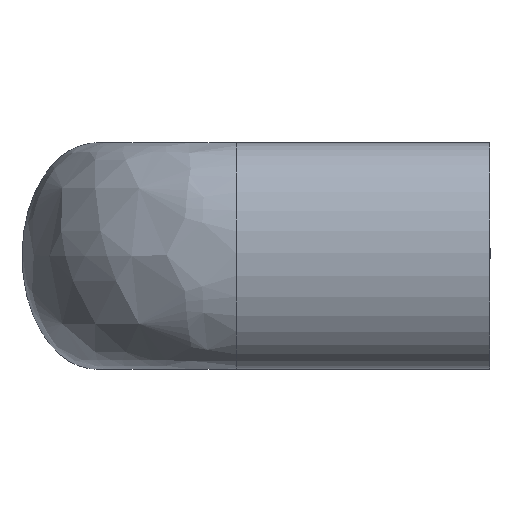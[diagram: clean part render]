
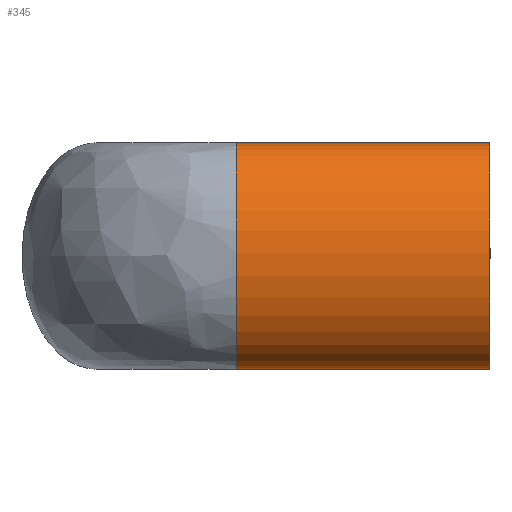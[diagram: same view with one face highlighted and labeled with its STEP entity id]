
A CAD part, left-side view. The second image highlights one B-rep face of the part: STEP entity #345.
In plain terms, the highlighted free-form (B-spline) face has degree [3, 1] with [4, 2] control points.
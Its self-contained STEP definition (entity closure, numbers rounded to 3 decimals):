
#23 = CARTESIAN_POINT ( 'NONE',  ( -60., -18., 14.5 ) ) ;
#24 = EDGE_CURVE ( 'NONE', #521, #193, #143, .T. ) ;
#44 =( BOUNDED_SURFACE ( )  B_SPLINE_SURFACE ( 3, 1, ( 
 ( #137, #107 ),
 ( #142, #647 ),
 ( #165, #265 ),
 ( #269, #262 ) ),
 .UNSPECIFIED., .F., .F., .T. ) 
 B_SPLINE_SURFACE_WITH_KNOTS ( ( 4, 4 ),
 ( 2, 2 ),
 ( 0., 1. ),
 ( 0., 1. ),
 .UNSPECIFIED. ) 
 GEOMETRIC_REPRESENTATION_ITEM ( )  RATIONAL_B_SPLINE_SURFACE ( (
 ( 1., 1.),
 ( 0.333, 0.333),
 ( 0.333, 0.333),
 ( 1., 1.) ) ) 
 REPRESENTATION_ITEM ( '' )  SURFACE ( )  );
#54 = EDGE_CURVE ( 'NONE', #193, #598, #132, .T. ) ;
#62 = DIRECTION ( 'NONE',  ( 0., -1., 0. ) ) ;
#63 = EDGE_CURVE ( 'NONE', #173, #598, #160, .T. ) ;
#65 = EDGE_CURVE ( 'NONE', #521, #173, #266, .T. ) ;
#107 = CARTESIAN_POINT ( 'NONE',  ( -60., -50.5, 14.5 ) ) ;
#111 = CARTESIAN_POINT ( 'NONE',  ( -79., -50.5, 14.5 ) ) ;
#118 = CARTESIAN_POINT ( 'NONE',  ( -60., -18., -14.5 ) ) ;
#121 = CARTESIAN_POINT ( 'NONE',  ( -79., -50.5, -14.5 ) ) ;
#132 =( BOUNDED_CURVE ( )  B_SPLINE_CURVE ( 3, ( #136, #111, #121, #140 ),
 .UNSPECIFIED., .F., .F. ) 
 B_SPLINE_CURVE_WITH_KNOTS ( ( 4, 4 ),
 ( 0., 3.142 ),
 .UNSPECIFIED. ) 
 CURVE ( )  GEOMETRIC_REPRESENTATION_ITEM ( )  RATIONAL_B_SPLINE_CURVE ( ( 1., 0.333, 0.333, 1. ) ) 
 REPRESENTATION_ITEM ( '' )  );
#133 = VECTOR ( 'NONE', #151, 1000. ) ;
#136 = CARTESIAN_POINT ( 'NONE',  ( -60., -50.5, 14.5 ) ) ;
#137 = CARTESIAN_POINT ( 'NONE',  ( -60., -18., 14.5 ) ) ;
#140 = CARTESIAN_POINT ( 'NONE',  ( -60., -50.5, -14.5 ) ) ;
#142 = CARTESIAN_POINT ( 'NONE',  ( -79., -18., 14.5 ) ) ;
#143 = LINE ( 'NONE', #23, #152 ) ;
#151 = DIRECTION ( 'NONE',  ( 0., -1., 0. ) ) ;
#152 = VECTOR ( 'NONE', #62, 1000. ) ;
#159 = CARTESIAN_POINT ( 'NONE',  ( -79., -18., 14.5 ) ) ;
#160 = LINE ( 'NONE', #118, #133 ) ;
#165 = CARTESIAN_POINT ( 'NONE',  ( -79., -18., -14.5 ) ) ;
#167 = CARTESIAN_POINT ( 'NONE',  ( -60., -18., 14.5 ) ) ;
#173 = VERTEX_POINT ( 'NONE', #517 ) ;
#182 = CARTESIAN_POINT ( 'NONE',  ( -79., -18., -14.5 ) ) ;
#190 = CARTESIAN_POINT ( 'NONE',  ( -60., -18., -14.5 ) ) ;
#193 = VERTEX_POINT ( 'NONE', #436 ) ;
#198 = ORIENTED_EDGE ( 'NONE', *, *, #65, .T. ) ;
#262 = CARTESIAN_POINT ( 'NONE',  ( -60., -50.5, -14.5 ) ) ;
#265 = CARTESIAN_POINT ( 'NONE',  ( -79., -50.5, -14.5 ) ) ;
#266 =( BOUNDED_CURVE ( )  B_SPLINE_CURVE ( 3, ( #167, #159, #182, #190 ),
 .UNSPECIFIED., .F., .F. ) 
 B_SPLINE_CURVE_WITH_KNOTS ( ( 4, 4 ),
 ( 0., 3.142 ),
 .UNSPECIFIED. ) 
 CURVE ( )  GEOMETRIC_REPRESENTATION_ITEM ( )  RATIONAL_B_SPLINE_CURVE ( ( 1., 0.333, 0.333, 1. ) ) 
 REPRESENTATION_ITEM ( '' )  );
#269 = CARTESIAN_POINT ( 'NONE',  ( -60., -18., -14.5 ) ) ;
#345 = ADVANCED_FACE ( 'NONE', ( #531 ), #44, .T. ) ;
#436 = CARTESIAN_POINT ( 'NONE',  ( -60., -50.5, 14.5 ) ) ;
#457 = ORIENTED_EDGE ( 'NONE', *, *, #63, .T. ) ;
#465 = CARTESIAN_POINT ( 'NONE',  ( -60., -18., 14.5 ) ) ;
#510 = ORIENTED_EDGE ( 'NONE', *, *, #54, .F. ) ;
#511 = ORIENTED_EDGE ( 'NONE', *, *, #24, .F. ) ;
#517 = CARTESIAN_POINT ( 'NONE',  ( -60., -18., -14.5 ) ) ;
#521 = VERTEX_POINT ( 'NONE', #465 ) ;
#531 = FACE_OUTER_BOUND ( 'NONE', #544, .T. ) ;
#544 = EDGE_LOOP ( 'NONE', ( #198, #457, #510, #511 ) ) ;
#550 = CARTESIAN_POINT ( 'NONE',  ( -60., -50.5, -14.5 ) ) ;
#598 = VERTEX_POINT ( 'NONE', #550 ) ;
#647 = CARTESIAN_POINT ( 'NONE',  ( -79., -50.5, 14.5 ) ) ;
